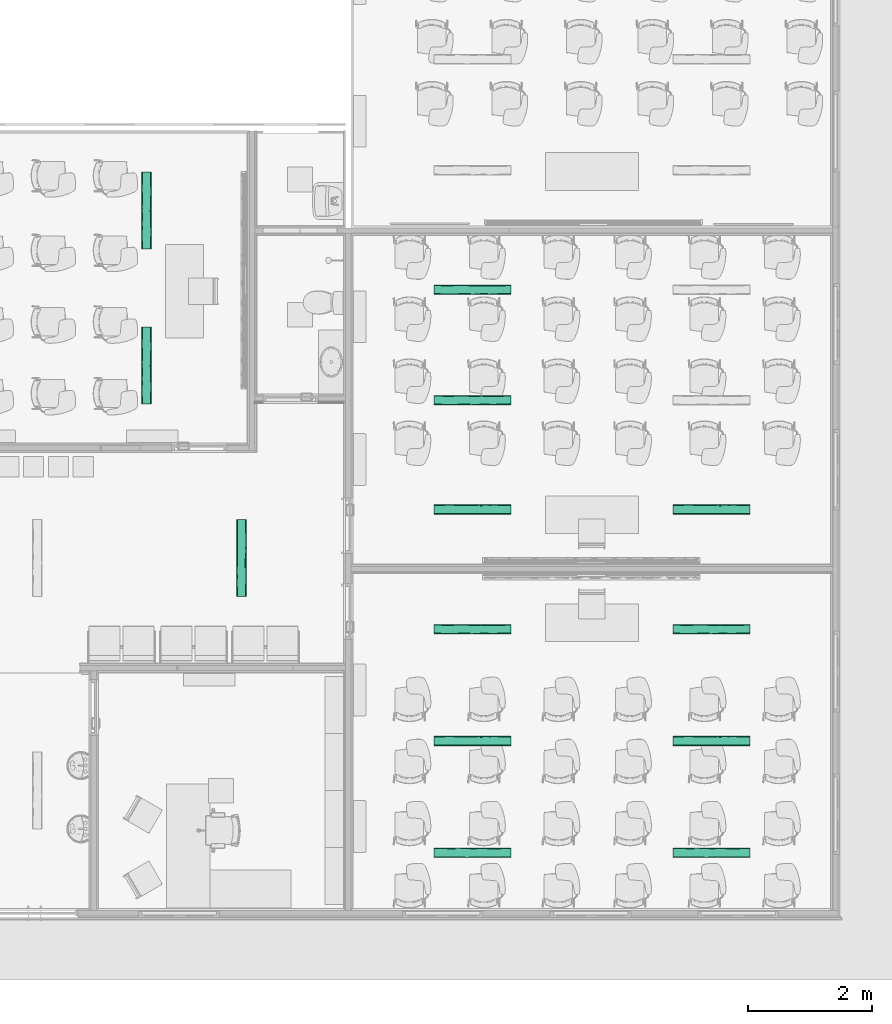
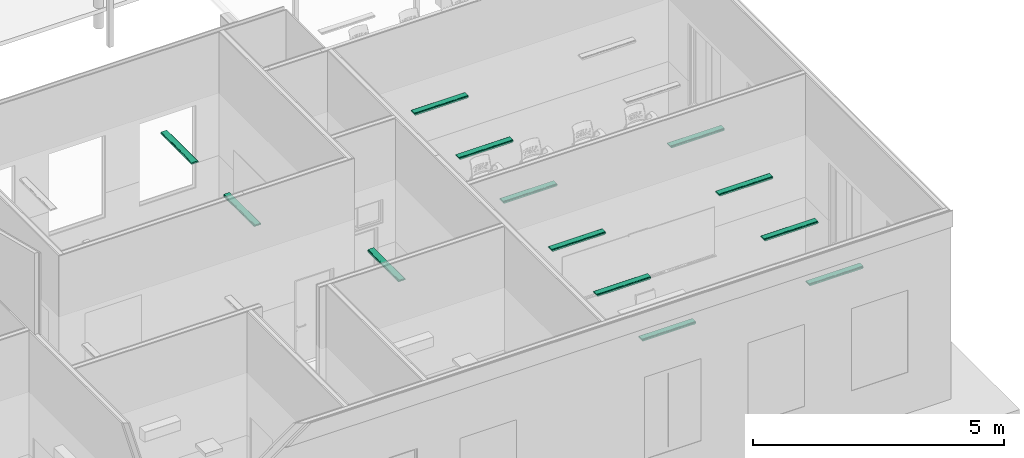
# One storey, part 55 of 155: 13 flow terminals.
"""IFC2X3 building model written with IfcOpenShell, lengths in metres."""

import ifcopenshell
import ifcopenshell.guid

model = None  # the IFC model being written
_history = None  # IfcOwnerHistory: only IFC2X3 demands one
_inside = {}  # id of a spatial element -> (the spatial element, [elements in it])
_under = {}  # id of a project, library or spatial element -> (it, [spatial elements below it])
_declared = {}  # id of a project -> (the project, [libraries it declares])
_typed = {}  # id of a type object -> (the type object, [elements of that type])
_made_of = {}  # id of a material, layer set ... -> (it, [elements and type objects made of it])


def new_model(schema):
    """Start an empty IFC model of exactly this schema.

    Asked for "IFC4X3", IfcOpenShell would pick the latest addendum, in which some entities
    have other attributes; the version numbers below select the first issue.
    IFC2X3 requires an IfcOwnerHistory on every rooted entity: one is made here for all.
    """
    global model, _history
    if schema == "IFC4X3":
        model = ifcopenshell.file(schema_version=(4, 3, 0, 0))
    else:
        model = ifcopenshell.file(schema=schema)
    _inside.clear()
    _under.clear()
    _declared.clear()
    _typed.clear()
    _made_of.clear()
    _history = None
    if model.schema == "IFC2X3":
        org = make("IfcOrganization", Name="unknown")
        user = make(
            "IfcPersonAndOrganization",
            ThePerson=make("IfcPerson", FamilyName="unknown"),
            TheOrganization=org,
        )
        app = make(
            "IfcApplication",
            ApplicationDeveloper=org,
            Version="unknown",
            ApplicationFullName="unknown",
            ApplicationIdentifier="unknown",
        )
        _history = make(
            "IfcOwnerHistory",
            OwningUser=user,
            OwningApplication=app,
            ChangeAction="ADDED",
            CreationDate=0,
        )
    return model


def make(cls, **values):
    """One entity of the class cls with the attributes given. An attribute that is None is left unset."""
    return model.create_entity(
        cls, **{name: value for name, value in values.items() if value is not None}
    )


def entity(cls, *values):
    """Any entity or typed value of the class cls, its attributes in the order of the schema. None: left unset."""
    e = model.create_entity(cls)
    for i, value in enumerate(values):
        if value is not None:
            e[i] = value
    return e


def rooted(cls, **values):
    """An entity with a GlobalId (a new one), such as an element, a storey or a relation."""
    return make(cls, GlobalId=ifcopenshell.guid.new(), OwnerHistory=_history, **values)


def si_unit(unit_type, name, prefix=None):
    """IfcSIUnit, for example si_unit("LENGTHUNIT", "METRE", prefix="MILLI")."""
    return make("IfcSIUnit", UnitType=unit_type, Prefix=prefix, Name=name)


def converted_unit(unit_type, name, factor, base, dimensions=None, offset=None):
    """IfcConversionBasedUnit, such as the inch: factor (a typed value) times the base unit."""
    return make(
        "IfcConversionBasedUnit"
        if offset is None
        else "IfcConversionBasedUnitWithOffset",
        ConversionOffset=offset,
        Dimensions=None
        if dimensions is None
        else entity("IfcDimensionalExponents", *dimensions),
        UnitType=unit_type,
        Name=name,
        ConversionFactor=make(
            "IfcMeasureWithUnit", ValueComponent=factor, UnitComponent=base
        ),
    )


def derived_unit(unit_type, elements):
    """IfcDerivedUnit: a product of units, each with its exponent."""
    return make(
        "IfcDerivedUnit",
        Elements=[
            make("IfcDerivedUnitElement", Unit=unit, Exponent=power)
            for unit, power in elements
        ],
        UnitType=unit_type,
    )


def assignment(units):
    """IfcUnitAssignment: the units of a project."""
    return None if units is None else make("IfcUnitAssignment", Units=units)


def point(xyz):
    """IfcCartesianPoint."""
    return None if xyz is None else make("IfcCartesianPoint", Coordinates=xyz)


def direction(xyz):
    """IfcDirection."""
    return None if xyz is None else make("IfcDirection", DirectionRatios=xyz)


def frame(location, z_axis=None, x_axis=None):
    """IfcAxis2Placement3D, a coordinate frame: its origin and axes. An axis left out is left unset."""
    return make(
        "IfcAxis2Placement3D",
        Location=point(location),
        Axis=direction(z_axis),
        RefDirection=direction(x_axis),
    )


def origin():
    """The frame at (0, 0, 0) with its axes left unset."""
    return frame((0.0, 0.0, 0.0))


def place(relative_to, where):
    """IfcLocalPlacement: puts the frame where relative to a parent placement (None: the world)."""
    return make(
        "IfcLocalPlacement", PlacementRelTo=relative_to, RelativePlacement=where
    )


def context(
    kind, dimensions, precision=None, world=None, true_north=None, identifier=None
):
    """IfcGeometricRepresentationContext, for example the 3D "Model" context."""
    return make(
        "IfcGeometricRepresentationContext",
        ContextIdentifier=identifier,
        ContextType=kind,
        CoordinateSpaceDimension=dimensions,
        Precision=precision,
        WorldCoordinateSystem=world,
        TrueNorth=true_north,
    )


def subcontext(parent, identifier, kind, view, scale=None):
    """IfcGeometricRepresentationSubContext, for example "Body" below "Model"."""
    return make(
        "IfcGeometricRepresentationSubContext",
        ContextIdentifier=identifier,
        ContextType=kind,
        ParentContext=parent,
        TargetScale=scale,
        TargetView=view,
    )


def project(units=None, contexts=None):
    """IfcProject with its units and contexts."""
    return rooted(
        "IfcProject",
        Name="project",
        RepresentationContexts=contexts,
        UnitsInContext=assignment(units),
    )


def spatial(cls, under=None, at=None, **own):
    """A site, building, storey or space (cls), placed at a placement, below another one or the project."""
    s = rooted(cls, ObjectPlacement=at, **own)
    if under is not None:
        _under.setdefault(under.id(), (under, []))[1].append(s)
    return s


def faces_of(points, faces, orient=None, outer=None):
    """IfcFace entities. A face is a list of loops; a loop is a list of indices into points, from 0.

    orient and outer hold one flag for each loop. By default every Orientation is true, the
    first loop of a face is its IfcFaceOuterBound and the others are IfcFaceBound.
    """
    made = []
    for i, loops in enumerate(faces):
        bounds = []
        for j, loop in enumerate(loops):
            is_outer = j == 0 if outer is None else outer[i][j]
            bounds.append(
                make(
                    "IfcFaceOuterBound" if is_outer else "IfcFaceBound",
                    Bound=make("IfcPolyLoop", Polygon=[points[k] for k in loop]),
                    Orientation=True if orient is None else orient[i][j],
                )
            )
        made.append(make("IfcFace", Bounds=bounds))
    return made


def faceted_brep(points, faces, orient=None, outer=None, voids=None):
    """IfcFacetedBrep: a solid bounded by flat faces; with voids (closed shells), ...WithVoids."""
    shared = [point(p) for p in points]
    hull = make("IfcClosedShell", CfsFaces=faces_of(shared, faces, orient, outer))
    if voids is None:
        return make("IfcFacetedBrep", Outer=hull)
    return make(
        "IfcFacetedBrepWithVoids",
        Outer=hull,
        Voids=[
            make(cls, CfsFaces=faces_of(shared, fs, o, b)) for cls, fs, o, b in voids
        ],
    )


def shape(context_of_items, identifier, shape_type, items):
    """IfcShapeRepresentation: the items that make up one representation, for example the "Body"."""
    return make(
        "IfcShapeRepresentation",
        ContextOfItems=context_of_items,
        RepresentationIdentifier=identifier,
        RepresentationType=shape_type,
        Items=items,
    )


def source(mapping_origin, context_of_items, identifier, shape_type, items):
    """IfcRepresentationMap: a shape defined once, which mapped items show again and again."""
    return make(
        "IfcRepresentationMap",
        MappingOrigin=mapping_origin,
        MappedRepresentation=shape(context_of_items, identifier, shape_type, items),
    )


def transform(
    local_origin,
    x_axis=None,
    y_axis=None,
    z_axis=None,
    scale=None,
    scale2=None,
    scale3=None,
    uniform=True,
):
    """IfcCartesianTransformationOperator3D, or its non-uniform kind. x_axis, y_axis, z_axis: its Axis1, 2, 3."""
    if uniform:
        return make(
            "IfcCartesianTransformationOperator3D",
            Axis1=direction(x_axis),
            Axis2=direction(y_axis),
            LocalOrigin=point(local_origin),
            Scale=scale,
            Axis3=direction(z_axis),
        )
    return make(
        "IfcCartesianTransformationOperator3DnonUniform",
        Axis1=direction(x_axis),
        Axis2=direction(y_axis),
        LocalOrigin=point(local_origin),
        Scale=scale,
        Axis3=direction(z_axis),
        Scale2=scale2,
        Scale3=scale3,
    )


def mapped(mapping_source, mapping_target):
    """IfcMappedItem: shows the shape of a source again, moved by a transform."""
    return make(
        "IfcMappedItem", MappingSource=mapping_source, MappingTarget=mapping_target
    )


def material(Name=None, Category=None):
    """IfcMaterial."""
    return make("IfcMaterial", Name=Name, Category=Category)


def material_list(materials):
    """IfcMaterialList."""
    return make("IfcMaterialList", Materials=materials)


def made_of(thing, what):
    """Note that an element or type object is made of a material, layer set ...; save() writes the relation."""
    if what is not None:
        _made_of.setdefault(what.id(), (what, []))[1].append(thing)
    return thing


def type_object(cls, material=None, **own):
    """A type object (cls), such as IfcWallType, which elements share."""
    return made_of(rooted(cls, **own), material)


def type_shapes(of_type, sources):
    """Give a type object the sources (RepresentationMaps) that its elements show as mapped items."""
    of_type.RepresentationMaps = sources


def element(
    cls,
    number,
    at=None,
    inside=None,
    cuts=None,
    type_object=None,
    material=None,
    context=None,
    identifier="Body",
    shape_type=None,
    held_by="IfcProductDefinitionShape",
    body=None,
    shapes=None,
    **own,
):
    """One element of the class cls, such as IfcWall. Its Tag is "e" and its number.

    at: its placement. inside: the storey or other place that contains it. cuts: it is an
    opening in that element (IfcRelVoidsElement). A single representation is given by context,
    identifier, shape_type and body (its items); several are given by shapes. held_by: the class
    of the entity that holds the representations. save() writes the other relations.
    """
    e = rooted(cls, Tag="e%d" % number, ObjectPlacement=at, **own)
    if body is not None:
        shapes = [shape(context, identifier, shape_type, body)]
    if shapes is not None:
        e.Representation = make(held_by, Representations=shapes)
    if inside is not None:
        _inside.setdefault(inside.id(), (inside, []))[1].append(e)
    if cuts is not None:
        rooted(
            "IfcRelVoidsElement", RelatingBuildingElement=cuts, RelatedOpeningElement=e
        )
    if type_object is not None:
        _typed.setdefault(type_object.id(), (type_object, []))[1].append(e)
    return made_of(e, material)


def aggregate(whole, parts):
    """IfcRelAggregates: a whole, such as a stair, and the parts it consists of."""
    return rooted("IfcRelAggregates", RelatingObject=whole, RelatedObjects=parts)


def save(model, path):
    """Write the relations noted so far, then the file.

    IfcRelAggregates (storeys below a building ...), IfcRelContainedInSpatialStructure (elements
    in a storey), IfcRelDefinesByType, IfcRelAssociatesMaterial and IfcRelDeclares: one each for
    every whole, place, type object, material and project.
    """
    for whole, parts in _under.values():
        aggregate(whole, parts)
    for where, things in _inside.values():
        rooted(
            "IfcRelContainedInSpatialStructure",
            RelatedElements=things,
            RelatingStructure=where,
        )
    for kind, things in _typed.values():
        rooted("IfcRelDefinesByType", RelatedObjects=things, RelatingType=kind)
    for what, things in _made_of.values():
        rooted("IfcRelAssociatesMaterial", RelatedObjects=things, RelatingMaterial=what)
    for by, libraries in _declared.values():
        rooted("IfcRelDeclares", RelatingContext=by, RelatedDefinitions=libraries)
    model.write(path)


model = new_model("IFC2X3")

# Units and contexts
model_context = context("Model", 3, precision=1e-05, world=origin(), true_north=direction((6.12303176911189e-17, 1.0)))
body_context = subcontext(model_context, "Body", "Model", "MODEL_VIEW")
ifc_project = project(units=[si_unit("LENGTHUNIT", "METRE"), si_unit("AREAUNIT", "SQUARE_METRE"), si_unit("VOLUMEUNIT", "CUBIC_METRE"), converted_unit("PLANEANGLEUNIT", "DEGREE", entity("IfcRatioMeasure", 0.0174532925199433), si_unit("PLANEANGLEUNIT", "RADIAN"), dimensions=[0, 0, 0, 0, 0, 0, 0]), si_unit("MASSUNIT", "GRAM", prefix="KILO"), derived_unit("MASSDENSITYUNIT", [(si_unit("MASSUNIT", "GRAM", prefix="KILO"), 1), (si_unit("LENGTHUNIT", "METRE"), -3)]), si_unit("TIMEUNIT", "SECOND"), si_unit("FREQUENCYUNIT", "HERTZ"), si_unit("THERMODYNAMICTEMPERATUREUNIT", "DEGREE_CELSIUS"), derived_unit("THERMALTRANSMITTANCEUNIT", [(si_unit("MASSUNIT", "GRAM", prefix="KILO"), 1), (si_unit("THERMODYNAMICTEMPERATUREUNIT", "KELVIN"), -1), (si_unit("TIMEUNIT", "SECOND"), -3)]), derived_unit("VOLUMETRICFLOWRATEUNIT", [(si_unit("LENGTHUNIT", "METRE"), 3), (si_unit("TIMEUNIT", "SECOND"), -1)]), si_unit("ELECTRICCURRENTUNIT", "AMPERE"), si_unit("ELECTRICVOLTAGEUNIT", "VOLT"), si_unit("POWERUNIT", "WATT"), si_unit("FORCEUNIT", "NEWTON", prefix="KILO"), si_unit("ILLUMINANCEUNIT", "LUX"), si_unit("LUMINOUSFLUXUNIT", "LUMEN"), si_unit("LUMINOUSINTENSITYUNIT", "CANDELA"), derived_unit("USERDEFINED", [(si_unit("MASSUNIT", "GRAM", prefix="KILO"), -1), (si_unit("LENGTHUNIT", "METRE"), -2), (si_unit("TIMEUNIT", "SECOND"), 3), (si_unit("LUMINOUSFLUXUNIT", "LUMEN"), 1)]), derived_unit("LINEARVELOCITYUNIT", [(si_unit("LENGTHUNIT", "METRE"), 1), (si_unit("TIMEUNIT", "SECOND"), -1)]), si_unit("PRESSUREUNIT", "PASCAL"), derived_unit("USERDEFINED", [(si_unit("LENGTHUNIT", "METRE"), -2), (si_unit("MASSUNIT", "GRAM", prefix="KILO"), 1), (si_unit("TIMEUNIT", "SECOND"), -2)])], contexts=[model_context])

# Site, building, storey, space
site_placement = place(None, frame((26.9889013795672, -17.5624287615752, 0.0)))
site = spatial("IfcSite", under=ifc_project, at=site_placement, Name="Default", CompositionType="ELEMENT")
building_placement = place(site_placement, origin())
building = spatial("IfcBuilding", under=site, at=building_placement, Name="C. C. L. Monsenhor Antônio Sampaio", CompositionType="ELEMENT")
storey_placement = place(building_placement, frame((0.0, 0.0, 1.19999999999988)))
storey = spatial("IfcBuildingStorey", under=building, at=storey_placement, Name="Nível 1.2", CompositionType="ELEMENT", Elevation=1.19999999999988)
space_1_placement = place(storey_placement, origin())
space_1 = spatial("IfcSpace", under=storey, at=space_1_placement, Name="77", CompositionType="ELEMENT", InteriorOrExteriorSpace="INTERNAL")

# Flow terminals
ifc_material_1 = material(Name="glass - blue - t85")
ifc_material_2 = material(Name="metal - aluminium")
ifc_material_list_1 = material_list([ifc_material_1, ifc_material_2])
ifc_material_list_2 = material_list([ifc_material_1, ifc_material_2])
light_fixture_type = type_object("IfcLightFixtureType", Name="BCS460 W16L124 1xLED24/840 MLO-PC", PredefinedType="NOTDEFINED", material=ifc_material_list_2)
shared_shape = source(origin(), body_context, "Body", "Brep", [
    faceted_brep([(0.585000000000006, 0.0435000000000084, -0.0460000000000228), (0.585000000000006, -0.0434999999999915, -0.0460000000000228), (0.585000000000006, -0.0434999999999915, -0.0490000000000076), (0.585000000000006, 0.0435000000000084, -0.0490000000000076), (-0.584999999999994, 0.0435000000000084, -0.0460000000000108), (-0.584999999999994, 0.0435000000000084, -0.0489999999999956), (-0.584999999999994, -0.0434999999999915, -0.0489999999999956), (-0.584999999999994, -0.0434999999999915, -0.0460000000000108)], [[[0, 1, 2, 3]], [[4, 5, 6, 7]], [[3, 5, 4, 0]], [[2, 6, 5, 3]], [[1, 7, 6, 2]], [[0, 4, 7, 1]]]),
    faceted_brep([(-0.584999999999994, -0.0434999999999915, -0.0489999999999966), (0.585000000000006, -0.0434999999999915, -0.0490000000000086), (0.585000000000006, -0.0554999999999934, -0.0490000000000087), (0.417543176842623, -0.0554999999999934, -0.0490000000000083), (0.334912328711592, -0.0554999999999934, -0.0490000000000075), (0.209867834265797, -0.0554999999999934, -0.0490000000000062), (0.0848246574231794, -0.0554999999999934, -0.0490000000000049), (-0.0826321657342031, -0.0554999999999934, -0.0490000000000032), (-0.250087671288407, -0.0554999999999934, -0.0490000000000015), (-0.417543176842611, -0.0554999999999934, -0.0489999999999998), (-0.584999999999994, -0.0554999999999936, -0.0489999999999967), (-0.584999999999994, 0.0435000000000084, -0.0489999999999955), (-0.584999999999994, 0.0555000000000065, -0.0489999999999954), (-0.417543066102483, 0.0555000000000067, -0.0489999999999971), (-0.334913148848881, 0.0555000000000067, -0.048999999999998), (-0.209868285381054, 0.0555000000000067, -0.0489999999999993), (-0.0848248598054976, 0.0555000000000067, -0.0490000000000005), (0.0826306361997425, 0.0555000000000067, -0.0490000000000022), (0.250087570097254, 0.0555000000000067, -0.049000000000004), (0.417544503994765, 0.0555000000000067, -0.0490000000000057), (0.585000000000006, 0.0555000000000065, -0.0490000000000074), (0.585000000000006, 0.0435000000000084, -0.0490000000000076), (0.585000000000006, -0.0434999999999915, -0.0190000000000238), (0.585000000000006, 0.0435000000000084, -0.0190000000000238), (0.585000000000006, 0.0614528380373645, -0.0482162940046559), (0.585000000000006, 0.0670000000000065, -0.0459185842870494), (0.585000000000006, 0.0717634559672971, -0.0422634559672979), (0.585000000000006, 0.0754185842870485, -0.0375000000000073), (0.585000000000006, 0.077716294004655, -0.0319528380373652), (0.585000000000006, 0.0785000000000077, -0.0260000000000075), (0.585000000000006, 0.0785000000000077, 0.0), (0.585000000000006, -0.0784999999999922, 0.0), (0.585000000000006, -0.0784999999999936, -0.02600000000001), (0.585000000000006, -0.0777162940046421, -0.031952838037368), (0.585000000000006, -0.0754185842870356, -0.03750000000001), (0.585000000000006, -0.0717634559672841, -0.0422634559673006), (0.585000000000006, -0.0669999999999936, -0.0459185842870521), (0.585000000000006, -0.0614528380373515, -0.0482162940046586), (-0.584999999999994, 0.0435000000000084, -0.0190000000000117), (-0.584999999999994, -0.0434999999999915, -0.0190000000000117), (-0.584999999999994, -0.0614528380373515, -0.0482162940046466), (-0.584999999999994, -0.0669999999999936, -0.0459185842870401), (-0.584999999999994, -0.0717634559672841, -0.0422634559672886), (-0.584999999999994, -0.0754185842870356, -0.037499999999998), (-0.584999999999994, -0.0777162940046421, -0.031952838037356), (-0.584999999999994, -0.0784999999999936, -0.025999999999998), (-0.584999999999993, -0.0784999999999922, 0.0), (-0.584999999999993, 0.0785000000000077, 0.0), (-0.584999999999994, 0.0785000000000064, -0.0259999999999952), (-0.584999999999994, 0.077716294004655, -0.0319528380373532), (-0.584999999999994, 0.0754185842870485, -0.0374999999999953), (-0.584999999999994, 0.0717634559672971, -0.0422634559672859), (-0.584999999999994, 0.0670000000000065, -0.0459185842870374), (-0.584999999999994, 0.0614528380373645, -0.0482162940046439), (0.417543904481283, 0.0785000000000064, -0.0260000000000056), (0.334912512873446, 0.0785000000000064, -0.0260000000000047), (0.209868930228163, 0.0785000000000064, -0.0260000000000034), (0.0848250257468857, 0.0785000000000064, -0.0260000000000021), (-0.0826310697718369, 0.0785000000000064, -0.0260000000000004), (-0.250087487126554, 0.0785000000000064, -0.0259999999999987), (-0.417543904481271, 0.0785000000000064, -0.025999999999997), (-0.430283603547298, 0.073747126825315, -0.0400015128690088), (-0.39346878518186, 0.069501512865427, -0.0442471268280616), (-0.441987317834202, 0.0643017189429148, -0.0472492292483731), (-0.435801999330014, 0.0759760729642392, -0.0364752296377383), (0.43028360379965, 0.0695015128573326, -0.0442471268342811), (0.393468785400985, 0.0737471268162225, -0.0400015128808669), (-0.166359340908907, 0.0777768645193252, -0.0317220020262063), (-0.333815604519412, 0.078144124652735, -0.0300303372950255), (0.441987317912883, 0.0767492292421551, -0.0348017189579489), (0.376228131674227, 0.0780233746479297, -0.0306580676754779), (-0.0103058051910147, 0.0779837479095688, -0.0308457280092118), (0.147346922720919, 0.0778835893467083, -0.0312891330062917), (0.0846877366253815, 0.0752228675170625, -0.0378325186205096), (0.113930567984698, 0.0669406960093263, -0.0459527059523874), (0.259392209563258, 0.0628104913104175, -0.0478072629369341), (0.138751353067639, 0.0626656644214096, -0.0478552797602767), (-0.327642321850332, 0.0767492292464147, -0.0348017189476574), (-0.44845841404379, 0.0775260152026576, -0.0326222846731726), (0.274715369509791, 0.0767492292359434, -0.0348017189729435), (0.37104983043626, 0.0643017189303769, -0.0472492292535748), (0.333815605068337, 0.0596187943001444, -0.0486282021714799), (0.0893720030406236, 0.0707479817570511, -0.0432191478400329), (-0.0153938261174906, 0.0683034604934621, -0.0451068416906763), (-0.376228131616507, 0.0601580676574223, -0.0485233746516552), (0.0434325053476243, 0.059742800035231, -0.048605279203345), (0.218757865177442, 0.0695015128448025, -0.0442471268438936), (0.464656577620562, 0.0597129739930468, -0.0486108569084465), (0.199843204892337, 0.0732493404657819, -0.0406274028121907), (-0.274715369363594, 0.0643017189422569, -0.0472492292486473), (-0.115235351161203, 0.073747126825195, -0.0400015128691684), (-0.150791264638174, 0.070206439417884, -0.0436839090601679), (-0.272759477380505, 0.0724713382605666, -0.0415233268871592), (-0.00814072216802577, 0.0636892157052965, -0.0474927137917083), (-0.14734692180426, 0.0607891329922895, -0.0483835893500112), (-0.269938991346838, 0.0692956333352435, -0.0444032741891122), (-0.201904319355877, 0.0758204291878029, -0.0367740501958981), (-0.0663340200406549, 0.0763921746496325, -0.0356185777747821), (-0.139314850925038, 0.066006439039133, -0.046460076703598), (-0.430283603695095, -0.0695015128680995, -0.0442471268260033), (-0.393468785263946, -0.073747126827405, -0.0400015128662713), (-0.44198731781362, -0.0767492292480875, -0.0348017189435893), (-0.435801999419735, -0.06597522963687, -0.0464760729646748), (0.430283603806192, -0.0737471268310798, -0.0400015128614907), (0.393468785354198, -0.0695015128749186, -0.0442471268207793), (-0.166359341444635, -0.061222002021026, -0.0482768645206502), (-0.333815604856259, -0.0595303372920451, -0.0486441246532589), (0.441987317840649, -0.0643017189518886, -0.0472492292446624), (0.37622813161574, -0.0601580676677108, -0.0485233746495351), (-0.0103058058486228, -0.0603457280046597, -0.0484837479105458), (0.147346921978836, -0.0607891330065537, -0.0483835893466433), (0.0846877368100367, -0.0673325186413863, -0.0457228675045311), (0.113930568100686, -0.0754527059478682, -0.0374406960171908), (0.259392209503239, -0.0773072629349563, -0.0333104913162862), (0.138751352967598, -0.0773552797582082, -0.0331656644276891), (-0.327642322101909, -0.0643017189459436, -0.047249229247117), (-0.448458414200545, -0.062122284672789, -0.048026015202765), (-0.417543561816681, -0.0784999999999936, -0.0259999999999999), (0.274715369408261, -0.0643017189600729, -0.0472492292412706), (0.371049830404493, -0.0767492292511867, -0.0348017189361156), (0.333815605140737, -0.0781282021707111, -0.0301187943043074), (0.250087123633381, -0.0784999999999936, -0.0260000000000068), (0.0893720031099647, -0.0727191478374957, -0.041247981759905), (-0.0153938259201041, -0.074606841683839, -0.0388034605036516), (-0.376228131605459, -0.0780233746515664, -0.0306580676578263), (0.0826306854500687, -0.0784999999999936, -0.026000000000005), (-0.0848257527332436, -0.0784999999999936, -0.0260000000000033), (0.0434325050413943, -0.0781052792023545, -0.030242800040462), (0.417543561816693, -0.0784999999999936, -0.0260000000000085), (0.21875786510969, -0.0737471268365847, -0.0400015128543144), (0.464656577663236, -0.0781108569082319, -0.0302129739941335), (0.19984320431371, -0.0701274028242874, -0.0437493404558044), (-0.274715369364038, -0.0767492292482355, -0.0348017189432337), (-0.115235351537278, -0.0695015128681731, -0.0442471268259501), (-0.150791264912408, -0.0731839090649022, -0.0407064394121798), (-0.209869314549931, -0.0784999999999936, -0.026000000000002), (-0.334912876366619, -0.0784999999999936, -0.0260000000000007), (-0.272759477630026, -0.071023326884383, -0.0429713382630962), (-0.00814072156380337, -0.0769927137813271, -0.0341892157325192), (-0.147346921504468, -0.0778835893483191, -0.03128913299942), (-0.269938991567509, -0.0739032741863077, -0.0397956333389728), (-0.201904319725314, -0.0662740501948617, -0.0463204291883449), (-0.0663340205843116, -0.0651185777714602, -0.0468921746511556), (-0.139314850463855, -0.0759600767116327, -0.0365064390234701)], [[[0, 1, 2, 3, 4, 5, 6, 7, 8, 9, 10]], [[11, 12, 13, 14, 15, 16, 17, 18, 19, 20, 21]], [[22, 23, 21, 20, 24, 25, 26, 27, 28, 29, 30, 31, 32, 33, 34, 35, 36, 37, 2, 1]], [[12, 11, 38, 39, 0, 10, 40, 41, 42, 43, 44, 45, 46, 47, 48, 49, 50, 51, 52, 53]], [[47, 30, 29, 54, 55, 56, 57, 58, 59, 60, 48]], [[61, 51, 50]], [[62, 51, 61]], [[51, 62, 52]], [[62, 63, 52]], [[63, 53, 52]], [[61, 50, 64]], [[26, 65, 66]], [[26, 25, 65]], [[54, 29, 28]], [[67, 68, 59]], [[69, 70, 28]], [[71, 72, 73]], [[74, 75, 76]], [[26, 66, 27]], [[77, 78, 68]], [[13, 12, 53]], [[69, 27, 66]], [[79, 73, 72]], [[24, 80, 25]], [[70, 79, 72]], [[69, 28, 27]], [[75, 81, 18]], [[82, 74, 83]], [[63, 84, 53]], [[17, 16, 85]], [[19, 18, 81]], [[75, 74, 86]], [[87, 81, 80]], [[73, 79, 88]], [[70, 56, 55, 54]], [[80, 86, 65]], [[89, 63, 62]], [[90, 83, 91]], [[84, 15, 14, 13]], [[61, 77, 92]], [[59, 68, 60]], [[78, 49, 48]], [[20, 87, 24]], [[93, 76, 85]], [[66, 65, 86]], [[65, 25, 80]], [[62, 61, 92]], [[77, 64, 78]], [[92, 90, 91]], [[89, 94, 84]], [[28, 70, 54]], [[79, 69, 66]], [[53, 84, 13]], [[91, 95, 92]], [[96, 90, 92]], [[56, 72, 57]], [[70, 69, 79]], [[70, 72, 56]], [[67, 59, 58]], [[71, 67, 58]], [[71, 58, 57]], [[83, 90, 82]], [[88, 82, 73]], [[96, 97, 90]], [[71, 73, 97]], [[15, 94, 16]], [[84, 63, 89]], [[84, 94, 15]], [[98, 83, 93]], [[83, 98, 91]], [[18, 17, 76]], [[62, 92, 95]], [[98, 95, 91]], [[98, 94, 89]], [[74, 76, 93]], [[93, 94, 98]], [[85, 16, 94]], [[19, 81, 87]], [[80, 81, 75]], [[19, 87, 20]], [[24, 87, 80]], [[78, 48, 60]], [[77, 68, 67]], [[68, 78, 60]], [[49, 78, 50]], [[78, 64, 50]], [[64, 77, 61]], [[94, 93, 85]], [[85, 76, 17]], [[97, 67, 71]], [[72, 71, 57]], [[77, 67, 96]], [[90, 97, 73]], [[97, 96, 67]], [[77, 96, 92]], [[80, 75, 86]], [[76, 75, 18]], [[95, 89, 62]], [[89, 95, 98]], [[86, 74, 82]], [[83, 74, 93]], [[86, 82, 88]], [[73, 82, 90]], [[88, 66, 86]], [[66, 88, 79]], [[99, 42, 41]], [[100, 42, 99]], [[42, 100, 43]], [[100, 101, 43]], [[101, 44, 43]], [[99, 41, 102]], [[35, 103, 104]], [[35, 34, 103]], [[3, 2, 37]], [[105, 106, 8]], [[107, 108, 37]], [[109, 110, 111]], [[112, 113, 114]], [[35, 104, 36]], [[115, 116, 106]], [[117, 45, 44]], [[107, 36, 104]], [[118, 111, 110]], [[33, 119, 34]], [[108, 118, 110]], [[107, 37, 36]], [[113, 120, 121]], [[122, 112, 123]], [[101, 124, 44]], [[125, 126, 127]], [[128, 121, 120]], [[113, 112, 129]], [[130, 120, 119]], [[111, 118, 131]], [[108, 5, 4, 3]], [[119, 129, 103]], [[132, 101, 100]], [[133, 123, 134]], [[124, 135, 136, 117]], [[99, 115, 137]], [[8, 106, 9]], [[116, 40, 10]], [[32, 130, 33]], [[138, 114, 127]], [[104, 103, 129]], [[103, 34, 119]], [[100, 99, 137]], [[115, 102, 116]], [[137, 133, 134]], [[132, 139, 124]], [[37, 108, 3]], [[118, 107, 104]], [[44, 124, 117]], [[134, 140, 137]], [[141, 133, 137]], [[5, 110, 6]], [[108, 107, 118]], [[108, 110, 5]], [[105, 8, 7]], [[109, 105, 7]], [[109, 7, 6]], [[123, 133, 122]], [[131, 122, 111]], [[141, 142, 133]], [[109, 111, 142]], [[135, 139, 126]], [[124, 101, 132]], [[124, 139, 135]], [[143, 123, 138]], [[123, 143, 134]], [[121, 125, 114]], [[100, 137, 140]], [[143, 140, 134]], [[143, 139, 132]], [[112, 114, 138]], [[138, 139, 143]], [[127, 126, 139]], [[128, 120, 130]], [[119, 120, 113]], [[128, 130, 32]], [[33, 130, 119]], [[116, 10, 9]], [[115, 106, 105]], [[106, 116, 9]], [[40, 116, 41]], [[116, 102, 41]], [[102, 115, 99]], [[139, 138, 127]], [[127, 114, 125]], [[142, 105, 109]], [[110, 109, 6]], [[115, 105, 141]], [[133, 142, 111]], [[142, 141, 105]], [[115, 141, 137]], [[119, 113, 129]], [[114, 113, 121]], [[140, 132, 100]], [[132, 140, 143]], [[129, 112, 122]], [[123, 112, 138]], [[129, 122, 131]], [[111, 122, 133]], [[131, 104, 129]], [[104, 131, 118]], [[31, 46, 45, 117, 136, 135, 126, 125, 121, 128, 32]], [[46, 31, 30, 47]], [[21, 23, 38, 11]], [[22, 1, 0, 39]], [[23, 22, 39, 38]]]),
    faceted_brep([(0.597000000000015, 0.0785000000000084, 0.0), (0.602952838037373, 0.0785000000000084, -0.000783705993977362), (0.608500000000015, 0.0785000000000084, -0.00308141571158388), (0.613263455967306, 0.0785000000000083, -0.00673654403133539), (0.616918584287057, 0.0785000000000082, -0.011499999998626), (0.619216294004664, 0.0785000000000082, -0.017047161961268), (0.620000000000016, 0.0785000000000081, -0.0229999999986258), (0.620000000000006, 0.0785000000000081, -0.0259999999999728), (0.585000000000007, 0.0785000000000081, -0.0259999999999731), (0.585000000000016, 0.0785000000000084, 0.0), (0.619216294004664, -0.0784999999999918, -0.0170471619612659), (0.616918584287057, -0.0784999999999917, -0.0114999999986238), (0.613263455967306, -0.0784999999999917, -0.00673654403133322), (0.608500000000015, -0.0784999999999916, -0.00308141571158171), (0.602952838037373, -0.0784999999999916, -0.000783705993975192), (0.597000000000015, -0.0784999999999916, 0.0), (0.585000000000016, -0.0784999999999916, 0.0), (0.585000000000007, -0.0784999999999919, -0.0260000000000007), (0.620000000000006, -0.0784999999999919, -0.0260000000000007), (0.620000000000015, -0.0784999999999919, -0.0229999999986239), (0.620000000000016, 0.0669999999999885, -0.0459185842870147), (0.620000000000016, 0.0717634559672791, -0.0422634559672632), (0.620000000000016, 0.0754185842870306, -0.0374999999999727), (0.620000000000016, 0.0777162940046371, -0.0319528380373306), (0.620000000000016, -0.0777162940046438, -0.0319528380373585), (0.620000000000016, -0.0754185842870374, -0.0375000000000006), (0.620000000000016, -0.071763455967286, -0.0422634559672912), (0.620000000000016, -0.0669999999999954, -0.0459185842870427), (0.620000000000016, -0.0614528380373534, -0.0482162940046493), (0.620000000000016, -0.0554999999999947, -0.0489999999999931), (0.620000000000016, 0.0554999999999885, -0.0489999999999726), (0.620000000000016, 0.0614528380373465, -0.0482162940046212), (0.585000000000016, 0.0554999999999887, -0.048999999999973), (0.585000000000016, -0.0554999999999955, -0.0490000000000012), (0.585000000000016, -0.0614528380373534, -0.0482162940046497), (0.585000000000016, -0.0669999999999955, -0.0459185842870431), (0.585000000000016, -0.071763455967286, -0.0422634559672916), (0.585000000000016, -0.0754185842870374, -0.0375000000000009), (0.585000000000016, -0.0777162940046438, -0.0319528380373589), (0.585000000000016, 0.0777162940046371, -0.031952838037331), (0.585000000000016, 0.0754185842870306, -0.037499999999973), (0.585000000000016, 0.0717634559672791, -0.0422634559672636), (0.585000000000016, 0.0669999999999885, -0.0459185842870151), (0.585000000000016, 0.0614528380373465, -0.0482162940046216)], [[[0, 1, 2, 3, 4, 5, 6, 7, 8, 9]], [[10, 11, 12, 13, 14, 15, 16, 17, 18, 19]], [[20, 21, 22, 23, 7, 6, 19, 18, 24, 25, 26, 27, 28, 29, 30, 31]], [[32, 33, 34, 35, 36, 37, 38, 17, 16, 9, 8, 39, 40, 41, 42, 43]], [[16, 15, 0, 9]], [[11, 10, 5, 4]], [[12, 11, 4, 3]], [[6, 5, 10, 19]], [[14, 13, 2, 1]], [[15, 14, 1, 0]], [[2, 13, 12, 3]], [[43, 31, 30, 32]], [[43, 42, 20, 31]], [[21, 20, 42, 41]], [[23, 22, 40, 39]], [[7, 23, 39, 8]], [[40, 22, 21, 41]], [[29, 33, 32, 30]], [[25, 24, 38, 37]], [[26, 25, 37, 36]], [[17, 38, 24, 18]], [[28, 27, 35, 34]], [[29, 28, 34, 33]], [[35, 27, 26, 36]]]),
    faceted_brep([(-0.608499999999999, 0.0785000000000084, -0.00308141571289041), (-0.602952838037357, 0.0785000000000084, -0.000783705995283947), (-0.597, 0.0785000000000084, 0.0), (-0.584999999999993, 0.0785000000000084, 0.0), (-0.584999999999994, 0.0785000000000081, -0.0260000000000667), (-0.619999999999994, 0.0785000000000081, -0.0260000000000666), (-0.619999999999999, 0.0785000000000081, -0.0229999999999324), (-0.619216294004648, 0.0785000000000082, -0.0170471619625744), (-0.616918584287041, 0.0785000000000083, -0.0114999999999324), (-0.61326345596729, 0.0785000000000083, -0.00673654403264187), (-0.584999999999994, -0.0784999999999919, -0.0260000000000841), (-0.584999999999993, -0.0784999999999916, 0.0), (-0.596999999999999, -0.0784999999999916, 0.0), (-0.602952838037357, -0.0784999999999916, -0.000783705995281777), (-0.608499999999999, -0.0784999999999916, -0.00308141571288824), (-0.61326345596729, -0.0784999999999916, -0.0067365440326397), (-0.616918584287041, -0.0784999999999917, -0.0114999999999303), (-0.619216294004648, -0.0784999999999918, -0.0170471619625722), (-0.619999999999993, -0.0784999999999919, -0.0229999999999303), (-0.619999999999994, -0.0784999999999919, -0.0260000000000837), (-0.619999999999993, 0.0777162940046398, -0.0319528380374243), (-0.619999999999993, 0.0754185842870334, -0.0375000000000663), (-0.619999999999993, 0.071763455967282, -0.042263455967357), (-0.619999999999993, 0.0669999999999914, -0.0459185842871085), (-0.619999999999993, 0.0614528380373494, -0.048216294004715), (-0.619999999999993, 0.0554999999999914, -0.0490000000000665), (-0.619999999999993, -0.0554999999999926, -0.0490000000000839), (-0.619999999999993, -0.0614528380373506, -0.0482162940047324), (-0.619999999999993, -0.0669999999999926, -0.0459185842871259), (-0.619999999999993, -0.0717634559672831, -0.0422634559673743), (-0.619999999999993, -0.0754185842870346, -0.0375000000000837), (-0.619999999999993, -0.0777162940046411, -0.0319528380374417), (-0.584999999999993, 0.0614528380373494, -0.0482162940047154), (-0.584999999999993, 0.0669999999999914, -0.0459185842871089), (-0.584999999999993, 0.071763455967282, -0.0422634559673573), (-0.584999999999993, 0.0754185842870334, -0.0375000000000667), (-0.584999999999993, 0.0777162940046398, -0.0319528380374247), (-0.584999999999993, -0.0777162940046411, -0.0319528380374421), (-0.584999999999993, -0.0754185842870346, -0.0375000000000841), (-0.584999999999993, -0.0717634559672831, -0.0422634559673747), (-0.584999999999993, -0.0669999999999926, -0.0459185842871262), (-0.584999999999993, -0.0614528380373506, -0.0482162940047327), (-0.584999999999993, -0.0554999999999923, -0.0490000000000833), (-0.584999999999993, 0.0554999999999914, -0.0490000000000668)], [[[0, 1, 2, 3, 4, 5, 6, 7, 8, 9]], [[10, 11, 12, 13, 14, 15, 16, 17, 18, 19]], [[5, 20, 21, 22, 23, 24, 25, 26, 27, 28, 29, 30, 31, 19, 18, 6]], [[32, 33, 34, 35, 36, 4, 3, 11, 10, 37, 38, 39, 40, 41, 42, 43]], [[12, 11, 3, 2]], [[14, 13, 1, 0]], [[15, 14, 0, 9]], [[2, 1, 13, 12]], [[17, 16, 8, 7]], [[18, 17, 7, 6]], [[8, 16, 15, 9]], [[22, 21, 35, 34]], [[36, 20, 5, 4]], [[21, 20, 36, 35]], [[24, 23, 33, 32]], [[25, 24, 32, 43]], [[33, 23, 22, 34]], [[26, 25, 43, 42]], [[28, 27, 41, 40]], [[29, 28, 40, 39]], [[42, 41, 27, 26]], [[31, 30, 38, 37]], [[19, 31, 37, 10]], [[38, 30, 29, 39]]]),
])
type_shapes(light_fixture_type, [shared_shape])
flow_terminal_1_placement = place(space_1_placement, frame((9.65444770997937, -36.6030663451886, 3.1), z_axis=(0.0, 0.0, -1.0), x_axis=(-1.0, 0.0, 0.0)))
element("IfcFlowTerminal", 1, at=flow_terminal_1_placement, inside=space_1, type_object=light_fixture_type, material=ifc_material_list_1, Name="63_PHILIPS_smartform-LED-surface_f:BCS460 W16L124 1xLED24/840 MLO-PC", ObjectType="BCS460 W16L124 1xLED24/840 MLO-PC", context=body_context, shape_type="MappedRepresentation", body=[
    mapped(shared_shape, transform((0.0, 0.0, 0.0), scale=1.0)),
])
ifc_material_list_3 = material_list([ifc_material_1, ifc_material_2])
flow_terminal_2_placement = place(space_1_placement, frame((9.65444770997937, -38.4030663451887, 3.1), z_axis=(0.0, 0.0, -1.0), x_axis=(-1.0, 0.0, 0.0)))
element("IfcFlowTerminal", 2, at=flow_terminal_2_placement, inside=space_1, type_object=light_fixture_type, material=ifc_material_list_3, Name="63_PHILIPS_smartform-LED-surface_f:BCS460 W16L124 1xLED24/840 MLO-PC", ObjectType="BCS460 W16L124 1xLED24/840 MLO-PC", context=body_context, shape_type="MappedRepresentation", body=[
    mapped(shared_shape, transform((0.0, 0.0, 0.0), scale=1.0)),
])
ifc_material_list_4 = material_list([ifc_material_1, ifc_material_2])
flow_terminal_3_placement = place(space_1_placement, frame((5.80444770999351, -38.4030663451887, 3.1), z_axis=(0.0, 0.0, -1.0), x_axis=(-1.0, 0.0, 0.0)))
element("IfcFlowTerminal", 3, at=flow_terminal_3_placement, inside=space_1, type_object=light_fixture_type, material=ifc_material_list_4, Name="63_PHILIPS_smartform-LED-surface_f:BCS460 W16L124 1xLED24/840 MLO-PC", ObjectType="BCS460 W16L124 1xLED24/840 MLO-PC", context=body_context, shape_type="MappedRepresentation", body=[
    mapped(shared_shape, transform((0.0, 0.0, 0.0), scale=1.0)),
])
ifc_material_list_5 = material_list([ifc_material_1, ifc_material_2])
flow_terminal_4_placement = place(space_1_placement, frame((5.80444771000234, -36.6030663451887, 3.1), z_axis=(0.0, 0.0, -1.0), x_axis=(-1.0, 0.0, 0.0)))
element("IfcFlowTerminal", 4, at=flow_terminal_4_placement, inside=space_1, type_object=light_fixture_type, material=ifc_material_list_5, Name="63_PHILIPS_smartform-LED-surface_f:BCS460 W16L124 1xLED24/840 MLO-PC", ObjectType="BCS460 W16L124 1xLED24/840 MLO-PC", context=body_context, shape_type="MappedRepresentation", body=[
    mapped(shared_shape, transform((0.0, 0.0, 0.0), scale=1.0)),
])
ifc_material_list_6 = material_list([ifc_material_1, ifc_material_2])
flow_terminal_5_placement = place(space_1_placement, frame((9.65444770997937, -34.8030663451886, 3.1), z_axis=(0.0, 0.0, -1.0), x_axis=(-1.0, 0.0, 0.0)))
element("IfcFlowTerminal", 5, at=flow_terminal_5_placement, inside=space_1, type_object=light_fixture_type, material=ifc_material_list_6, Name="63_PHILIPS_smartform-LED-surface_f:BCS460 W16L124 1xLED24/840 MLO-PC", ObjectType="BCS460 W16L124 1xLED24/840 MLO-PC", context=body_context, shape_type="MappedRepresentation", body=[
    mapped(shared_shape, transform((0.0, 0.0, 0.0), scale=1.0)),
])
ifc_material_list_7 = material_list([ifc_material_1, ifc_material_2])
flow_terminal_6_placement = place(space_1_placement, frame((5.80444771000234, -34.8030663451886, 3.1), z_axis=(0.0, 0.0, -1.0), x_axis=(-1.0, 0.0, 0.0)))
element("IfcFlowTerminal", 6, at=flow_terminal_6_placement, inside=space_1, type_object=light_fixture_type, material=ifc_material_list_7, Name="63_PHILIPS_smartform-LED-surface_f:BCS460 W16L124 1xLED24/840 MLO-PC", ObjectType="BCS460 W16L124 1xLED24/840 MLO-PC", context=body_context, shape_type="MappedRepresentation", body=[
    mapped(shared_shape, transform((0.0, 0.0, 0.0), scale=1.0)),
])

# Space
space_2_placement = place(storey_placement, origin())
space_2 = spatial("IfcSpace", under=storey, at=space_2_placement, Name="82", CompositionType="ELEMENT", InteriorOrExteriorSpace="INTERNAL")

# Flow terminals
ifc_material_list_8 = material_list([ifc_material_1, ifc_material_2])
flow_terminal_7_placement = place(space_2_placement, frame((9.65444770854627, -32.8730663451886, 3.1), z_axis=(0.0, 0.0, -1.0), x_axis=(-1.0, 0.0, 0.0)))
element("IfcFlowTerminal", 7, at=flow_terminal_7_placement, inside=space_2, type_object=light_fixture_type, material=ifc_material_list_8, Name="63_PHILIPS_smartform-LED-surface_f:BCS460 W16L124 1xLED24/840 MLO-PC", ObjectType="BCS460 W16L124 1xLED24/840 MLO-PC", context=body_context, shape_type="MappedRepresentation", body=[
    mapped(shared_shape, transform((0.0, 0.0, 0.0), scale=1.0)),
])
ifc_material_list_9 = material_list([ifc_material_1, ifc_material_2])
flow_terminal_8_placement = place(space_2_placement, frame((5.80444770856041, -32.8730663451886, 3.1), z_axis=(0.0, 0.0, -1.0), x_axis=(-1.0, 0.0, 0.0)))
element("IfcFlowTerminal", 8, at=flow_terminal_8_placement, inside=space_2, type_object=light_fixture_type, material=ifc_material_list_9, Name="63_PHILIPS_smartform-LED-surface_f:BCS460 W16L124 1xLED24/840 MLO-PC", ObjectType="BCS460 W16L124 1xLED24/840 MLO-PC", context=body_context, shape_type="MappedRepresentation", body=[
    mapped(shared_shape, transform((0.0, 0.0, 0.0), scale=1.0)),
])
ifc_material_list_10 = material_list([ifc_material_1, ifc_material_2])
flow_terminal_9_placement = place(space_2_placement, frame((5.80444770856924, -31.1130663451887, 3.1), z_axis=(0.0, 0.0, -1.0), x_axis=(-1.0, 0.0, 0.0)))
element("IfcFlowTerminal", 9, at=flow_terminal_9_placement, inside=space_2, type_object=light_fixture_type, material=ifc_material_list_10, Name="63_PHILIPS_smartform-LED-surface_f:BCS460 W16L124 1xLED24/840 MLO-PC", ObjectType="BCS460 W16L124 1xLED24/840 MLO-PC", context=body_context, shape_type="MappedRepresentation", body=[
    mapped(shared_shape, transform((0.0, 0.0, 0.0), scale=1.0)),
])
ifc_material_list_11 = material_list([ifc_material_1, ifc_material_2])
flow_terminal_10_placement = place(space_2_placement, frame((5.80444770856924, -29.3330663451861, 3.1), z_axis=(0.0, 0.0, -1.0), x_axis=(-1.0, 0.0, 0.0)))
element("IfcFlowTerminal", 10, at=flow_terminal_10_placement, inside=space_2, type_object=light_fixture_type, material=ifc_material_list_11, Name="63_PHILIPS_smartform-LED-surface_f:BCS460 W16L124 1xLED24/840 MLO-PC", ObjectType="BCS460 W16L124 1xLED24/840 MLO-PC", context=body_context, shape_type="MappedRepresentation", body=[
    mapped(shared_shape, transform((0.0, 0.0, 0.0), scale=1.0)),
])

# Space
space_3_placement = place(storey_placement, origin())
space_3 = spatial("IfcSpace", under=storey, at=space_3_placement, Name="85", CompositionType="ELEMENT", InteriorOrExteriorSpace="INTERNAL")

# Flow terminals
ifc_material_list_12 = material_list([ifc_material_1, ifc_material_2])
flow_terminal_11_placement = place(space_3_placement, frame((0.554434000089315, -28.0530663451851, 3.1), z_axis=(0.0, 0.0, -1.0), x_axis=(0.0, -1.0, 0.0)))
element("IfcFlowTerminal", 11, at=flow_terminal_11_placement, inside=space_3, type_object=light_fixture_type, material=ifc_material_list_12, Name="63_PHILIPS_smartform-LED-surface_f:BCS460 W16L124 1xLED24/840 MLO-PC", ObjectType="BCS460 W16L124 1xLED24/840 MLO-PC", context=body_context, shape_type="MappedRepresentation", body=[
    mapped(shared_shape, transform((0.0, 0.0, 0.0), scale=1.0)),
])
ifc_material_list_13 = material_list([ifc_material_1, ifc_material_2])
flow_terminal_12_placement = place(space_3_placement, frame((0.554434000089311, -30.5530663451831, 3.1), z_axis=(0.0, 0.0, -1.0), x_axis=(0.0, -1.0, 0.0)))
element("IfcFlowTerminal", 12, at=flow_terminal_12_placement, inside=space_3, type_object=light_fixture_type, material=ifc_material_list_13, Name="63_PHILIPS_smartform-LED-surface_f:BCS460 W16L124 1xLED24/840 MLO-PC", ObjectType="BCS460 W16L124 1xLED24/840 MLO-PC", context=body_context, shape_type="MappedRepresentation", body=[
    mapped(shared_shape, transform((0.0, 0.0, 0.0), scale=1.0)),
])

# Space
space_4_placement = place(storey_placement, origin())
space_4 = spatial("IfcSpace", under=storey, at=space_4_placement, Name="101", CompositionType="ELEMENT", InteriorOrExteriorSpace="INTERNAL")

# Flow terminal
ifc_material_list_14 = material_list([ifc_material_1, ifc_material_2])
flow_terminal_13_placement = place(space_4_placement, frame((2.08444770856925, -33.6530663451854, 3.1), z_axis=(0.0, 0.0, -1.0), x_axis=(0.0, -1.0, 0.0)))
element("IfcFlowTerminal", 13, at=flow_terminal_13_placement, inside=space_4, type_object=light_fixture_type, material=ifc_material_list_14, Name="63_PHILIPS_smartform-LED-surface_f:BCS460 W16L124 1xLED24/840 MLO-PC", ObjectType="BCS460 W16L124 1xLED24/840 MLO-PC", context=body_context, shape_type="MappedRepresentation", body=[
    mapped(shared_shape, transform((0.0, 0.0, 0.0), scale=1.0)),
])

save(model, "model.ifc")
